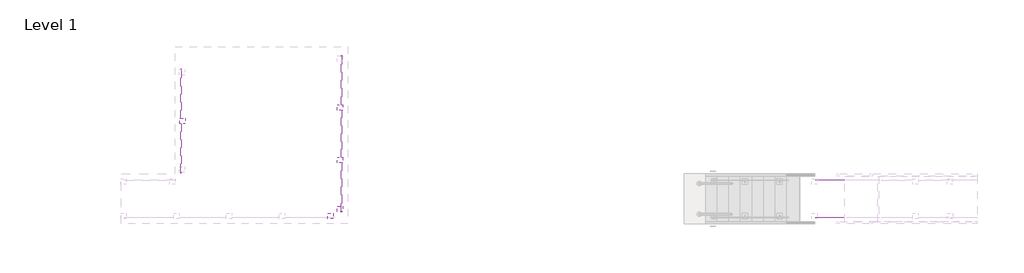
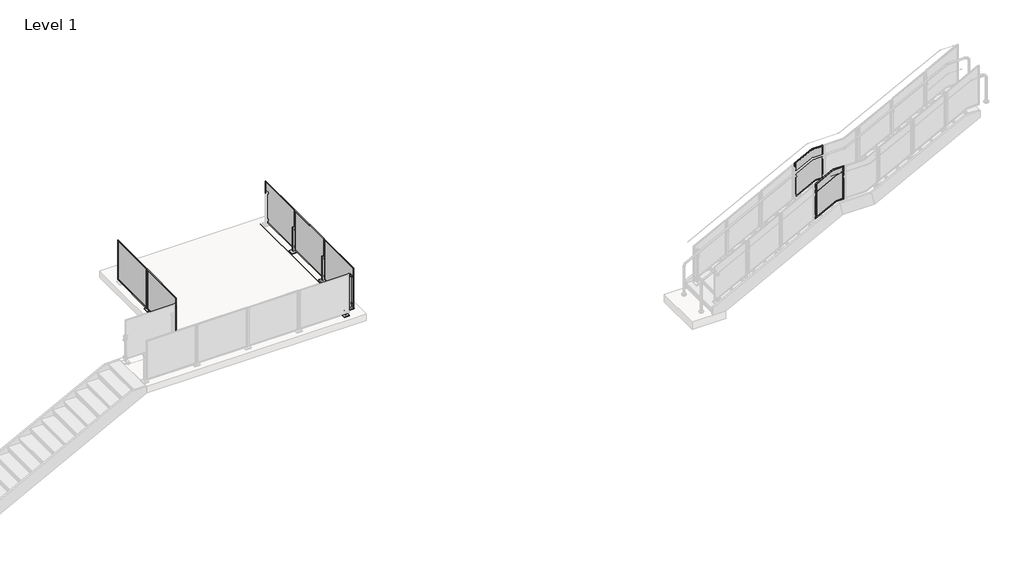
# One storey, part 3 of 28: 4 railings, 2 proxies.
"""IFC4 building model written with IfcOpenShell, lengths in millimetres."""

from ifc_helpers import new_model, si_unit, point, frame, frame_2d, origin, place, context, project, spatial, polyline, circle_curve, trimmed, segment, composite_curve, outline, extrude, transform, mapped, element, save
from components import building_element_proxy_d87515a7, building_element_proxy_88367a16, standard_pp01_c8bfe862, standard_pp01_6f34aec3

model = new_model("IFC4")

# Units and contexts
model_context = context("Model", 3, world=origin())
ifc_project = project(units=[si_unit("LENGTHUNIT", "METRE", prefix="MILLI")], contexts=[model_context])

# Site, building, storey
site = spatial("IfcSite", under=ifc_project)
building = spatial("IfcBuilding", under=site)
storey = spatial("IfcBuildingStorey", under=building, Name="Level 1", Elevation=0.0)

# Proxies
placement = place(None, origin())
building_element_proxy_shape = building_element_proxy_d87515a7(model_context)
element("IfcBuildingElementProxy", 1, Name="Baluster-End-Post-VIVA-STRUC-Top Mount : ANCHORED TO CONCRETE_TOP MOUNT STRUC_STRAIGHT", ObjectType="Baluster-End-Post-VIVA-STRUC-Top Mount : ANCHORED TO CONCRETE_TOP MOUNT STRUC_STRAIGHT", at=placement, inside=storey, context=model_context, shape_type="MappedRepresentation", body=[
    mapped(building_element_proxy_shape, transform((-27904.0759339, -18337.8968047, 3047.492), x_axis=(0.0, 1.0, 0.0), y_axis=(-1.0, 0.0, 0.0), z_axis=(0.0, 0.0, 1.0))),
])
building_element_proxy_2_shape = building_element_proxy_88367a16(model_context)
element("IfcBuildingElementProxy", 2, Name="Baluster-End-Post-VIVA-STRUC-Top Mount : ANCHORED TO CONCRETE_TOP MOUNT STRUC_STRAIGHT", ObjectType="Baluster-End-Post-VIVA-STRUC-Top Mount : ANCHORED TO CONCRETE_TOP MOUNT STRUC_STRAIGHT", at=placement, inside=storey, context=model_context, shape_type="MappedRepresentation", body=[
    mapped(building_element_proxy_2_shape, transform((-27936.8813244, -18322.9489897, 3047.492), x_axis=(1.0, 0.0, 0.0), y_axis=(0.0, 1.0, 0.0), z_axis=(0.0, 0.0, 1.0))),
])

# Railings
element("IfcRailing", 3, ObjectType="Metal-Panel-VIVA-STRUC-Slab-Top-Anchor-Straight", at=placement, inside=storey, context=model_context, shape_type="SweptSolid", body=[
    extrude(outline(composite_curve([segment(trimmed(circle_curve(frame_2d((3047.746, -31511.1662678)), 0.254), [point((3047.746, -31510.9122678))], [point((3047.746, -31511.4202678))], False, "CARTESIAN"), True, "CONTINUOUS"), segment(trimmed(circle_curve(frame_2d((3047.746, -31511.1662678)), 0.254), [point((3047.746, -31511.4202678))], [point((3047.746, -31510.9122678))], False, "CARTESIAN"), True, "CONTINUOUS")], self_intersect=False)), frame((0.0, -17397.5929387, 0.0), z_axis=(0.0, 1.0, 0.0), x_axis=(0.0, 0.0, 1.0)), (0.0, 0.0, 1.0), 2540.0),
    extrude(outline(composite_curve([segment(trimmed(circle_curve(frame_2d((3047.746, -31511.1662678)), 0.254), [point((3047.746, -31510.9122678))], [point((3047.746, -31511.4202678))], False, "CARTESIAN"), True, "CONTINUOUS"), segment(trimmed(circle_curve(frame_2d((3047.746, -31511.1662678)), 0.254), [point((3047.746, -31511.4202678))], [point((3047.746, -31510.9122678))], False, "CARTESIAN"), True, "CONTINUOUS")], self_intersect=False)), frame((0.0, -17397.5929387, 0.0), z_axis=(0.0, 1.0, 0.0), x_axis=(0.0, 0.0, 1.0)), (0.0, 0.0, 1.0), 2540.0),
    extrude(outline(polyline([(-31638.0152678, -16086.7664818), (-31638.0152678, -14898.4193956), (-31635.0152678, -14898.4193956), (-31635.0152678, -16086.7664818), (-31638.0152678, -16086.7664818)])), frame((0.0, 0.0, 3124.1959569), z_axis=(0.0, 0.0, 1.0), x_axis=(1.0, 0.0, 0.0)), (0.0, 0.0, 1.0), 990.5826861),
    extrude(outline(polyline([(-16112.1664818, 3098.7959569), (-16112.1664818, 4140.1786431), (-14873.0193956, 4140.1786431), (-14873.0193956, 3098.7959569), (-16112.1664818, 3098.7959569)]), holes=[polyline([(-16086.7664818, 4114.7786431), (-16086.7664818, 3124.1959569), (-14898.4193956, 3124.1959569), (-14898.4193956, 4114.7786431), (-16086.7664818, 4114.7786431)])]), frame((-31644.5402678, 0.0, 0.0), z_axis=(1.0, 0.0, 0.0), x_axis=(0.0, 1.0, 0.0)), (0.0, 0.0, 1.0), 9.525),
    extrude(outline(polyline([(-31627.9046678, -16165.693658), (-31635.0166678, -16165.693658), (-31635.0166678, -16089.4922195), (-31627.9046678, -16089.4922195), (-31627.9046678, -16165.693658)])), frame((0.0, 0.0, 3617.976), z_axis=(0.0, 0.0, 1.0), x_axis=(1.0, 0.0, 0.0)), (0.0, 0.0, 1.0), 50.8),
    extrude(outline(polyline([(-31627.9046678, -16165.693658), (-31635.0166678, -16165.693658), (-31635.0166678, -16089.4922195), (-31627.9046678, -16089.4922195), (-31627.9046678, -16165.693658)])), frame((0.0, 0.0, 3160.776), z_axis=(0.0, 0.0, 1.0), x_axis=(1.0, 0.0, 0.0)), (0.0, 0.0, 1.0), 50.8),
    extrude(outline(polyline([(-31539.7920678, -16193.4805387), (-31671.5672678, -16193.4805387), (-31671.5672678, -16061.7053387), (-31539.7920678, -16061.7053387), (-31539.7920678, -16193.4805387)])), frame((0.0, 0.0, 3048.0), z_axis=(0.0, 0.0, 1.0), x_axis=(1.0, 0.0, 0.0)), (0.0, 0.0, 1.0), 25.4),
    extrude(outline(polyline([(-31583.4546678, -16135.5325304), (-31627.9046678, -16135.5325304), (-31627.9046678, -16119.6533471), (-31583.4546678, -16119.6533471), (-31583.4546678, -16135.5325304)])), frame((0.0, 0.0, 3048.0), z_axis=(0.0, 0.0, 1.0), x_axis=(1.0, 0.0, 0.0)), (0.0, 0.0, 1.0), 660.4),
    extrude(outline(polyline([(-31638.0152678, -17356.7664818), (-31638.0152678, -16168.4193956), (-31635.0152678, -16168.4193956), (-31635.0152678, -17356.7664818), (-31638.0152678, -17356.7664818)])), frame((0.0, 0.0, 3124.1959569), z_axis=(0.0, 0.0, 1.0), x_axis=(1.0, 0.0, 0.0)), (0.0, 0.0, 1.0), 990.5826861),
    extrude(outline(polyline([(-17382.1664818, 3098.7959569), (-17382.1664818, 4140.1786431), (-16143.0193956, 4140.1786431), (-16143.0193956, 3098.7959569), (-17382.1664818, 3098.7959569)]), holes=[polyline([(-17356.7664818, 4114.7786431), (-17356.7664818, 3124.1959569), (-16168.4193956, 3124.1959569), (-16168.4193956, 4114.7786431), (-17356.7664818, 4114.7786431)])]), frame((-31644.5402678, 0.0, 0.0), z_axis=(1.0, 0.0, 0.0), x_axis=(0.0, 1.0, 0.0)), (0.0, 0.0, 1.0), 9.525),
])
element("IfcRailing", 4, ObjectType="Metal-Panel-VIVA-STRUC-Slab-Top-Anchor-Straight", at=placement, inside=storey, context=model_context, shape_type="SweptSolid", body=[
    extrude(outline(composite_curve([segment(trimmed(circle_curve(frame_2d((3047.746, -27904.0759339)), 0.254), [point((3047.746, -27903.8219339))], [point((3047.746, -27904.3299339))], False, "CARTESIAN"), True, "CONTINUOUS"), segment(trimmed(circle_curve(frame_2d((3047.746, -27904.0759339)), 0.254), [point((3047.746, -27904.3299339))], [point((3047.746, -27903.8219339))], False, "CARTESIAN"), True, "CONTINUOUS")], self_intersect=False)), frame((0.0, -18337.8968047, 0.0), z_axis=(0.0, 1.0, 0.0), x_axis=(0.0, 0.0, 1.0)), (0.0, 0.0, 1.0), 3810.0),
    extrude(outline(composite_curve([segment(trimmed(circle_curve(frame_2d((3047.746, -27904.0759339)), 0.254), [point((3047.746, -27903.8219339))], [point((3047.746, -27904.3299339))], False, "CARTESIAN"), True, "CONTINUOUS"), segment(trimmed(circle_curve(frame_2d((3047.746, -27904.0759339)), 0.254), [point((3047.746, -27904.3299339))], [point((3047.746, -27903.8219339))], False, "CARTESIAN"), True, "CONTINUOUS")], self_intersect=False)), frame((0.0, -18337.8968047, 0.0), z_axis=(0.0, 1.0, 0.0), x_axis=(0.0, 0.0, 1.0)), (0.0, 0.0, 1.0), 3810.0),
    extrude(outline(polyline([(-27777.2269339, -15757.0703478), (-27780.2269339, -15757.0703478), (-27780.2269339, -14568.7232617), (-27777.2269339, -14568.7232617), (-27777.2269339, -15757.0703478)])), frame((0.0, 0.0, 3124.1959569), z_axis=(0.0, 0.0, 1.0), x_axis=(1.0, 0.0, 0.0)), (0.0, 0.0, 1.0), 990.5826861),
    extrude(outline(polyline([(-15782.4703478, 4140.1786431), (-14543.3232617, 4140.1786431), (-14543.3232617, 3098.7959569), (-15782.4703478, 3098.7959569), (-15782.4703478, 4140.1786431)]), holes=[polyline([(-15757.0703478, 3124.1959569), (-14568.7232617, 3124.1959569), (-14568.7232617, 4114.7786431), (-15757.0703478, 4114.7786431), (-15757.0703478, 3124.1959569)])]), frame((-27780.2269339, 0.0, 0.0), z_axis=(1.0, 0.0, 0.0), x_axis=(0.0, 1.0, 0.0)), (0.0, 0.0, 1.0), 9.525),
    extrude(outline(polyline([(-27787.3375339, -15835.997524), (-27787.3375339, -15759.7960855), (-27780.2255339, -15759.7960855), (-27780.2255339, -15835.997524), (-27787.3375339, -15835.997524)])), frame((0.0, 0.0, 3617.976), z_axis=(0.0, 0.0, 1.0), x_axis=(1.0, 0.0, 0.0)), (0.0, 0.0, 1.0), 50.8),
    extrude(outline(polyline([(-27787.3375339, -15835.997524), (-27787.3375339, -15759.7960855), (-27780.2255339, -15759.7960855), (-27780.2255339, -15835.997524), (-27787.3375339, -15835.997524)])), frame((0.0, 0.0, 3160.776), z_axis=(0.0, 0.0, 1.0), x_axis=(1.0, 0.0, 0.0)), (0.0, 0.0, 1.0), 50.8),
    extrude(outline(polyline([(-27875.4501339, -15863.7844047), (-27875.4501339, -15732.0092047), (-27743.6749339, -15732.0092047), (-27743.6749339, -15863.7844047), (-27875.4501339, -15863.7844047)])), frame((0.0, 0.0, 3048.0), z_axis=(0.0, 0.0, 1.0), x_axis=(1.0, 0.0, 0.0)), (0.0, 0.0, 1.0), 25.4),
    extrude(outline(polyline([(-27831.7875339, -15805.8363964), (-27831.7875339, -15789.9572131), (-27787.3375339, -15789.9572131), (-27787.3375339, -15805.8363964), (-27831.7875339, -15805.8363964)])), frame((0.0, 0.0, 3048.0), z_axis=(0.0, 0.0, 1.0), x_axis=(1.0, 0.0, 0.0)), (0.0, 0.0, 1.0), 660.4),
    extrude(outline(polyline([(-27777.2269339, -17027.0703478), (-27780.2269339, -17027.0703478), (-27780.2269339, -15838.7232617), (-27777.2269339, -15838.7232617), (-27777.2269339, -17027.0703478)])), frame((0.0, 0.0, 3124.1959569), z_axis=(0.0, 0.0, 1.0), x_axis=(1.0, 0.0, 0.0)), (0.0, 0.0, 1.0), 990.5826861),
    extrude(outline(polyline([(-17052.4703478, 4140.1786431), (-15813.3232617, 4140.1786431), (-15813.3232617, 3098.7959569), (-17052.4703478, 3098.7959569), (-17052.4703478, 4140.1786431)]), holes=[polyline([(-17027.0703478, 3124.1959569), (-15838.7232617, 3124.1959569), (-15838.7232617, 4114.7786431), (-17027.0703478, 4114.7786431), (-17027.0703478, 3124.1959569)])]), frame((-27780.2269339, 0.0, 0.0), z_axis=(1.0, 0.0, 0.0), x_axis=(0.0, 1.0, 0.0)), (0.0, 0.0, 1.0), 9.525),
    extrude(outline(polyline([(-27787.3375339, -17105.997524), (-27787.3375339, -17029.7960855), (-27780.2255339, -17029.7960855), (-27780.2255339, -17105.997524), (-27787.3375339, -17105.997524)])), frame((0.0, 0.0, 3617.976), z_axis=(0.0, 0.0, 1.0), x_axis=(1.0, 0.0, 0.0)), (0.0, 0.0, 1.0), 50.8),
    extrude(outline(polyline([(-27787.3375339, -17105.997524), (-27787.3375339, -17029.7960855), (-27780.2255339, -17029.7960855), (-27780.2255339, -17105.997524), (-27787.3375339, -17105.997524)])), frame((0.0, 0.0, 3160.776), z_axis=(0.0, 0.0, 1.0), x_axis=(1.0, 0.0, 0.0)), (0.0, 0.0, 1.0), 50.8),
    extrude(outline(polyline([(-27875.4501339, -17133.7844047), (-27875.4501339, -17002.0092047), (-27743.6749339, -17002.0092047), (-27743.6749339, -17133.7844047), (-27875.4501339, -17133.7844047)])), frame((0.0, 0.0, 3048.0), z_axis=(0.0, 0.0, 1.0), x_axis=(1.0, 0.0, 0.0)), (0.0, 0.0, 1.0), 25.4),
    extrude(outline(polyline([(-27831.7875339, -17075.8363964), (-27831.7875339, -17059.9572131), (-27787.3375339, -17059.9572131), (-27787.3375339, -17075.8363964), (-27831.7875339, -17075.8363964)])), frame((0.0, 0.0, 3048.0), z_axis=(0.0, 0.0, 1.0), x_axis=(1.0, 0.0, 0.0)), (0.0, 0.0, 1.0), 660.4),
    extrude(outline(polyline([(-27777.2269339, -18297.0703478), (-27780.2269339, -18297.0703478), (-27780.2269339, -17108.7232617), (-27777.2269339, -17108.7232617), (-27777.2269339, -18297.0703478)])), frame((0.0, 0.0, 3124.1959569), z_axis=(0.0, 0.0, 1.0), x_axis=(1.0, 0.0, 0.0)), (0.0, 0.0, 1.0), 990.5826861),
    extrude(outline(polyline([(-18322.4703478, 4140.1786431), (-17083.3232617, 4140.1786431), (-17083.3232617, 3098.7959569), (-18322.4703478, 3098.7959569), (-18322.4703478, 4140.1786431)]), holes=[polyline([(-18297.0703478, 3124.1959569), (-17108.7232617, 3124.1959569), (-17108.7232617, 4114.7786431), (-18297.0703478, 4114.7786431), (-18297.0703478, 3124.1959569)])]), frame((-27780.2269339, 0.0, 0.0), z_axis=(1.0, 0.0, 0.0), x_axis=(0.0, 1.0, 0.0)), (0.0, 0.0, 1.0), 9.525),
])
standard_pp01_shape = standard_pp01_c8bfe862(model_context)
element("IfcRailing", 5, ObjectType="Baluster-Landing-Panel-VIVA-STRUC-Lower : Standard_PP01", at=placement, inside=storey, context=model_context, shape_type="MappedRepresentation", body=[
    mapped(standard_pp01_shape, transform((-16364.1715204, -18467.7699245, 1737.2220146), x_axis=(0.0, 1.0, 0.0), y_axis=(-1.0, 0.0, 0.0), z_axis=(0.0, 0.0, 1.0))),
])
standard_pp01_2_shape = standard_pp01_6f34aec3(model_context)
element("IfcRailing", 6, ObjectType="Baluster-Landing-Panel-VIVA-STRUC-Lower : Standard_PP01", at=placement, inside=storey, context=model_context, shape_type="MappedRepresentation", body=[
    mapped(standard_pp01_2_shape, transform((-16364.1715204, -17536.943353, 1737.2220146), x_axis=(0.0, -1.0, 0.0), y_axis=(1.0, 0.0, 0.0), z_axis=(0.0, 0.0, 1.0))),
])

save(model, "model.ifc")
